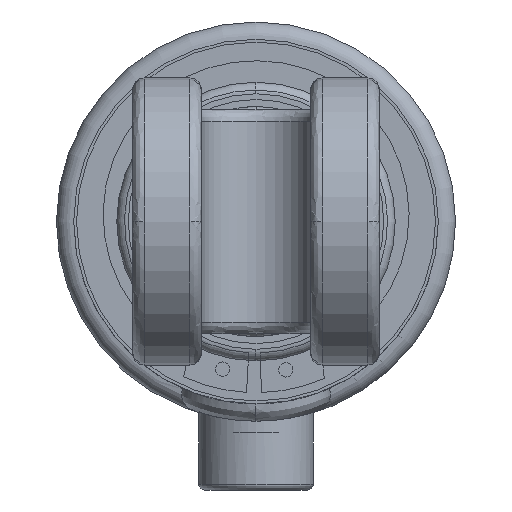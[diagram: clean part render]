
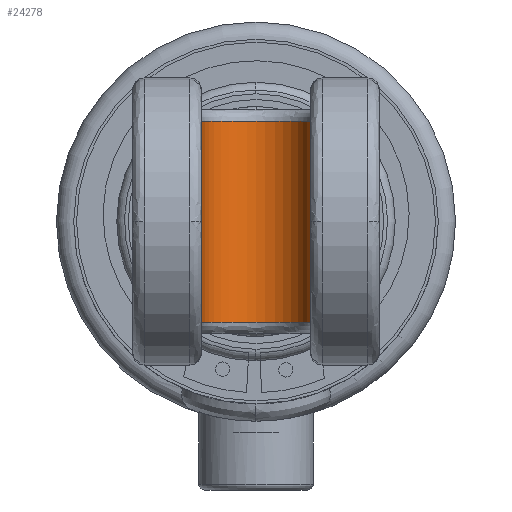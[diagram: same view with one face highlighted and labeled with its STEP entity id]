
A CAD part, left-side view. The second image highlights one B-rep face of the part: STEP entity #24278.
In plain terms, the highlighted cylindrical face has radius 9.5 mm (diameter 19 mm), a partial arc.
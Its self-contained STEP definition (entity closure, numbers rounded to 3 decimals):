
#245 = CARTESIAN_POINT ( 'NONE',  ( 0.293, -7.946, -19.5 ) ) ;
#392 = CARTESIAN_POINT ( 'NONE',  ( 0.293, -7.946, 17.5 ) ) ;
#533 = CARTESIAN_POINT ( 'NONE',  ( 0.293, -17.446, -19.5 ) ) ;
#2139 = DIRECTION ( 'NONE',  ( 0., 0., 1. ) ) ;
#2290 = DIRECTION ( 'NONE',  ( 1., 0., 0. ) ) ;
#2917 = VERTEX_POINT ( 'NONE', #23139 ) ;
#5778 = LINE ( 'NONE', #9363, #15412 ) ;
#6318 = ORIENTED_EDGE ( 'NONE', *, *, #15276, .F. ) ;
#6458 = ORIENTED_EDGE ( 'NONE', *, *, #7072, .F. ) ;
#7072 = EDGE_CURVE ( 'NONE', #18601, #17683, #9876, .T. ) ;
#8469 = CIRCLE ( 'NONE', #15646, 9.5 ) ;
#9041 = CARTESIAN_POINT ( 'NONE',  ( 0.293, -7.946, -17.5 ) ) ;
#9363 = CARTESIAN_POINT ( 'NONE',  ( 0.293, 1.554, -19.5 ) ) ;
#9641 = VERTEX_POINT ( 'NONE', #19058 ) ;
#9876 = LINE ( 'NONE', #533, #19512 ) ;
#10964 = DIRECTION ( 'NONE',  ( 1., 0., 0. ) ) ;
#11951 = FACE_OUTER_BOUND ( 'NONE', #17387, .T. ) ;
#13333 = EDGE_CURVE ( 'NONE', #9641, #2917, #5778, .T. ) ;
#13489 = AXIS2_PLACEMENT_3D ( 'NONE', #245, #2139, #15574 ) ;
#13490 = CIRCLE ( 'NONE', #21540, 9.5 ) ;
#13780 = DIRECTION ( 'NONE',  ( 0., 0., -1. ) ) ;
#15276 = EDGE_CURVE ( 'NONE', #2917, #18601, #8469, .T. ) ;
#15412 = VECTOR ( 'NONE', #22827, 1000. ) ;
#15574 = DIRECTION ( 'NONE',  ( 1., 0., 0. ) ) ;
#15646 = AXIS2_PLACEMENT_3D ( 'NONE', #9041, #22500, #10964 ) ;
#17387 = EDGE_LOOP ( 'NONE', ( #6458, #6318, #22754, #19260 ) ) ;
#17683 = VERTEX_POINT ( 'NONE', #20075 ) ;
#18601 = VERTEX_POINT ( 'NONE', #19013 ) ;
#19013 = CARTESIAN_POINT ( 'NONE',  ( 0.293, -17.446, -17.5 ) ) ;
#19058 = CARTESIAN_POINT ( 'NONE',  ( 0.293, 1.554, 17.5 ) ) ;
#19260 = ORIENTED_EDGE ( 'NONE', *, *, #20946, .F. ) ;
#19512 = VECTOR ( 'NONE', #23549, 1000. ) ;
#20075 = CARTESIAN_POINT ( 'NONE',  ( 0.293, -17.446, 17.5 ) ) ;
#20946 = EDGE_CURVE ( 'NONE', #17683, #9641, #13490, .T. ) ;
#21540 = AXIS2_PLACEMENT_3D ( 'NONE', #392, #13780, #2290 ) ;
#21589 = CYLINDRICAL_SURFACE ( 'NONE', #13489, 9.5 ) ;
#22500 = DIRECTION ( 'NONE',  ( 0., 0., 1. ) ) ;
#22754 = ORIENTED_EDGE ( 'NONE', *, *, #13333, .F. ) ;
#22827 = DIRECTION ( 'NONE',  ( 0., 0., -1. ) ) ;
#23139 = CARTESIAN_POINT ( 'NONE',  ( 0.293, 1.554, -17.5 ) ) ;
#23549 = DIRECTION ( 'NONE',  ( 0., 0., 1. ) ) ;
#24278 = ADVANCED_FACE ( 'NONE', ( #11951 ), #21589, .F. ) ;
